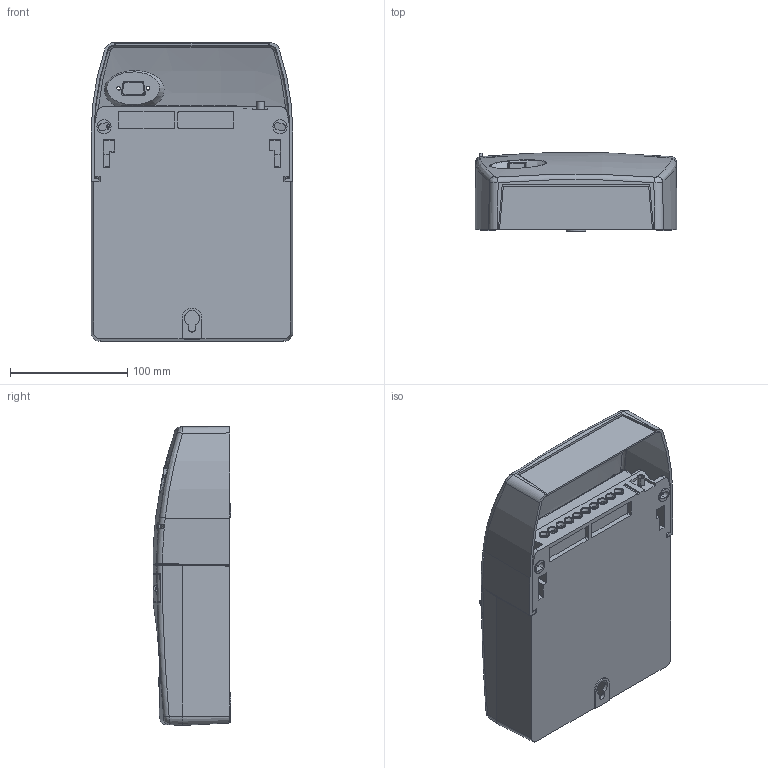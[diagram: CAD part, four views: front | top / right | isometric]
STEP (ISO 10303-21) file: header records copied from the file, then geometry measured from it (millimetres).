
FILE_DESCRIPTION((''),'2;1');
FILE_NAME('C_14616_ASM','2024-09-19T09:19:39',('lesquembri'),(''),'CREO PARAMETRIC BY PTC INC, 2018260','CREO PARAMETRIC BY PTC INC, 2018260','');
FILE_SCHEMA(('AUTOMOTIVE_DESIGN { 1 0 10303 214 1 1 1 1 }'));
Products named in the file (1): C_14616_ASM
Bounding box: 172 x 66.45 x 254.7 mm (x, y, z)
Volume: 512489.8 mm3; surface area: 383653.5 mm2
Topology: 2 solids, 3 shells, 5636 faces, 16037 edges, 10667 vertices
Faces by surface type: plane 4427, cylinder 565, cone 372, torus 128, bspline 117, extrusion 16, sphere 11
Entity records: 196439 total; most frequent: CARTESIAN_POINT 48593, ORIENTED_EDGE 32048, DIRECTION 27727, EDGE_CURVE 16024, VECTOR 12319, LINE 12303, VERTEX_POINT 10667, AXIS2_PLACEMENT_3D 7704
